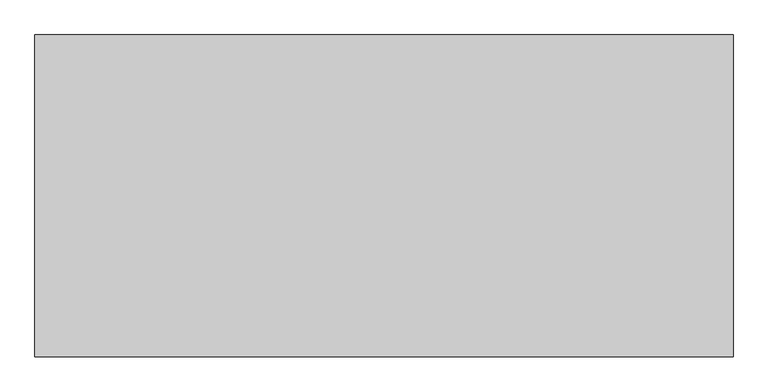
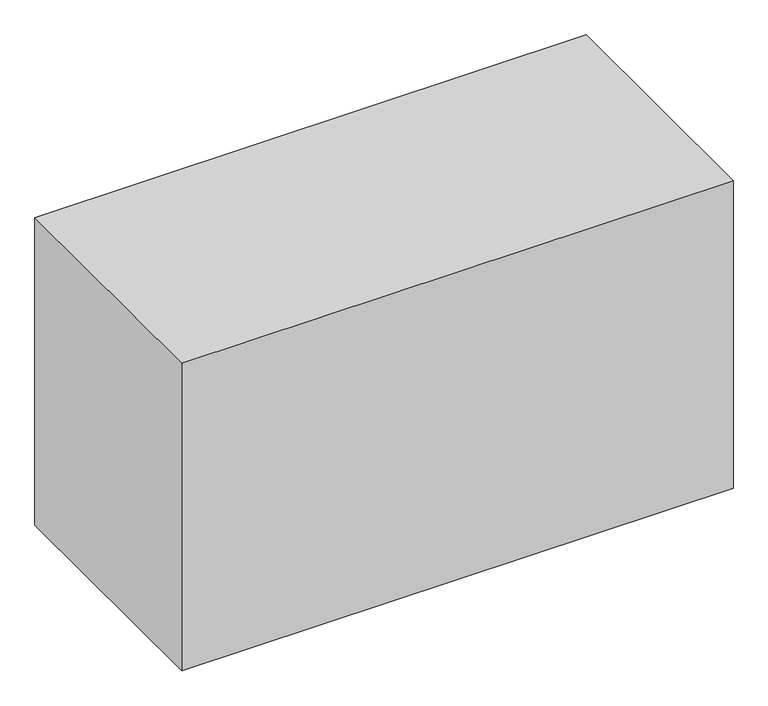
"""IFC4 building model written with IfcOpenShell, lengths in millimetres: proxy geometry."""

from ifc_helpers import new_model, si_unit, origin, origin_with_axes, place, context, project, spatial, polyline, outline, extrude, source, transform, mapped, element, save


def generic_models_8f4b19db(model_context):
    return source(origin(), model_context, "Body", "SweptSolid", [
        extrude(outline(polyline([(-108559.9999698, -40101.0996729), (-104319.647381, -40101.0996729), (-104319.647381, -42055.0027343), (-108559.9999698, -42055.0027343), (-108559.9999698, -40101.0996729)])), origin_with_axes(), (0.0, 0.0, 1.0), 2500.0),
    ])


if __name__ == "__main__":
    model = new_model("IFC4")
    model_context = context("Model", 3, world=origin())
    ifc_project = project(units=[si_unit("LENGTHUNIT", "METRE", prefix="MILLI")], contexts=[model_context])
    site = spatial("IfcSite", under=ifc_project)
    building = spatial("IfcBuilding", under=site)
    placement = place(None, origin())
    generic_models_shape = generic_models_8f4b19db(model_context)
    element("IfcBuildingElementProxy", 1, Name="Generic Models", at=placement, inside=building, context=model_context, shape_type="MappedRepresentation", body=[
        mapped(generic_models_shape, transform((0.0, 0.0, 0.0), x_axis=(1.0, 0.0, 0.0), y_axis=(0.0, 1.0, 0.0), z_axis=(0.0, 0.0, 1.0))),
    ])
    save(model, "model.ifc")
